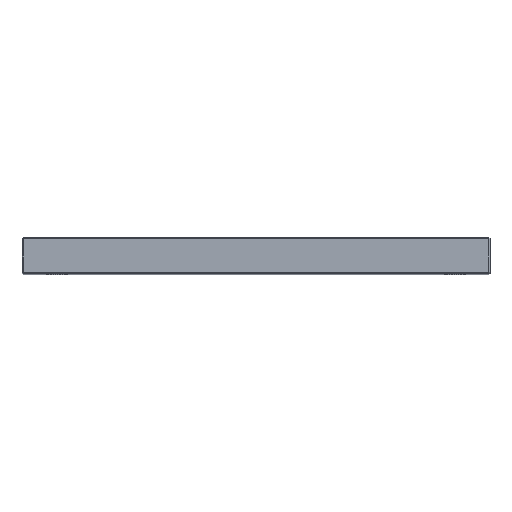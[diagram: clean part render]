
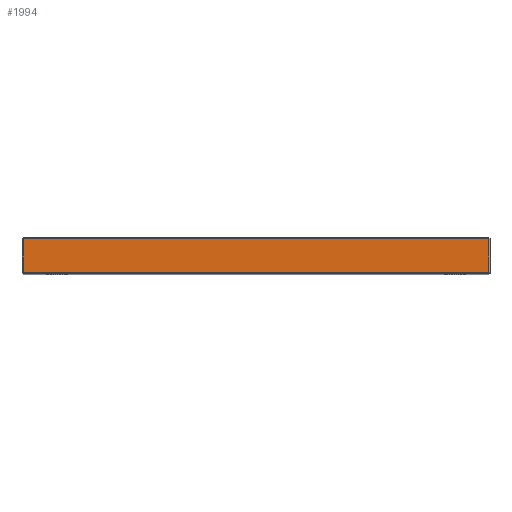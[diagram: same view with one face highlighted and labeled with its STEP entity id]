
A CAD part, top view. The second image highlights one B-rep face of the part: STEP entity #1994.
In plain terms, the highlighted planar face has unit normal (0, 0, 1).
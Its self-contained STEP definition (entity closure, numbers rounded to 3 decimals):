
#12 = CARTESIAN_POINT ( 'NONE',  ( 173., 27., 223. ) ) ;
#43 = VERTEX_POINT ( 'NONE', #1738 ) ;
#274 = VECTOR ( 'NONE', #2127, 1000. ) ;
#451 = ORIENTED_EDGE ( 'NONE', *, *, #580, .T. ) ;
#510 = CARTESIAN_POINT ( 'NONE',  ( 172., 27., 223. ) ) ;
#580 = EDGE_CURVE ( 'NONE', #1127, #1362, #1782, .T. ) ;
#699 = EDGE_CURVE ( 'NONE', #1362, #43, #1523, .T. ) ;
#770 = DIRECTION ( 'NONE',  ( -1., 0., 0. ) ) ;
#781 = EDGE_LOOP ( 'NONE', ( #1833, #2321, #451, #1440 ) ) ;
#946 = CARTESIAN_POINT ( 'NONE',  ( -172., 1., 223. ) ) ;
#1004 = CARTESIAN_POINT ( 'NONE',  ( 172., 1., 223. ) ) ;
#1043 = DIRECTION ( 'NONE',  ( 0., -1., 0. ) ) ;
#1056 = CARTESIAN_POINT ( 'NONE',  ( -173., 26., 223. ) ) ;
#1125 = EDGE_CURVE ( 'NONE', #43, #1581, #2094, .T. ) ;
#1127 = VERTEX_POINT ( 'NONE', #946 ) ;
#1226 = DIRECTION ( 'NONE',  ( 0., 1., 0. ) ) ;
#1360 = CARTESIAN_POINT ( 'NONE',  ( -172., 27., 223. ) ) ;
#1362 = VERTEX_POINT ( 'NONE', #1004 ) ;
#1409 = CARTESIAN_POINT ( 'NONE',  ( -172., 26., 223. ) ) ;
#1411 = LINE ( 'NONE', #1360, #2230 ) ;
#1432 = CARTESIAN_POINT ( 'NONE',  ( 173., 1., 223. ) ) ;
#1440 = ORIENTED_EDGE ( 'NONE', *, *, #699, .T. ) ;
#1523 = LINE ( 'NONE', #510, #1967 ) ;
#1581 = VERTEX_POINT ( 'NONE', #1409 ) ;
#1611 = EDGE_CURVE ( 'NONE', #1581, #1127, #1411, .T. ) ;
#1618 = VECTOR ( 'NONE', #770, 1000. ) ;
#1738 = CARTESIAN_POINT ( 'NONE',  ( 172., 26., 223. ) ) ;
#1782 = LINE ( 'NONE', #1432, #274 ) ;
#1825 = DIRECTION ( 'NONE',  ( -1., 0., 0. ) ) ;
#1833 = ORIENTED_EDGE ( 'NONE', *, *, #1125, .T. ) ;
#1874 = AXIS2_PLACEMENT_3D ( 'NONE', #12, #2190, #1825 ) ;
#1967 = VECTOR ( 'NONE', #1226, 1000. ) ;
#1994 = ADVANCED_FACE ( 'NONE', ( #2122 ), #2351, .F. ) ;
#2094 = LINE ( 'NONE', #1056, #1618 ) ;
#2122 = FACE_OUTER_BOUND ( 'NONE', #781, .T. ) ;
#2127 = DIRECTION ( 'NONE',  ( 1., 0., 0. ) ) ;
#2190 = DIRECTION ( 'NONE',  ( 0., 0., -1. ) ) ;
#2230 = VECTOR ( 'NONE', #1043, 1000. ) ;
#2321 = ORIENTED_EDGE ( 'NONE', *, *, #1611, .T. ) ;
#2351 = PLANE ( 'NONE',  #1874 ) ;
